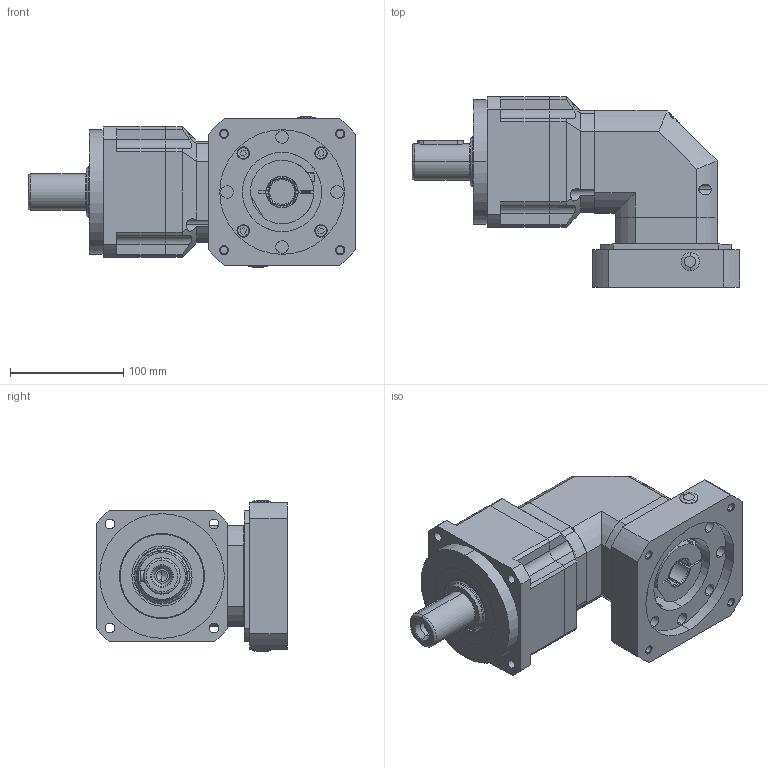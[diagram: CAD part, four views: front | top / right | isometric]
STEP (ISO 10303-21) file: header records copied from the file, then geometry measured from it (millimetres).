
FILE_DESCRIPTION (( 'STEP AP203' ), '1' );
FILE_NAME ('PHFZ115-L2-24-110-145-M8(T倰)-芧怢12.STEP', '2020-06-15T09:04:31', ( 'ylmfeng' ), ( 'ylmfeng.com' ), 'SwSTEP 2.0', 'SolidWorks 2014', '' );
FILE_SCHEMA (( 'CONFIG_CONTROL_DESIGN' ));
Length unit declared in the file: millimetre
Products named in the file (1): PHFZ115-L2-24-110-145-M8(T倰)-芧怢12
Bounding box: 289 x 168 x 133 mm (x, y, z)
Volume: 2514954.4 mm3; surface area: 294528.8 mm2
Topology: 33 solids, 33 shells, 841 faces, 1977 edges, 1252 vertices
Faces by surface type: plane 382, cylinder 287, cone 92, torus 50, bspline 26, sphere 4
Entity records: 27484 total; most frequent: CARTESIAN_POINT 8112, DIRECTION 4105, ORIENTED_EDGE 3922, EDGE_CURVE 1961, AXIS2_PLACEMENT_3D 1533, VERTEX_POINT 1252, VECTOR 1039, LINE 1039
